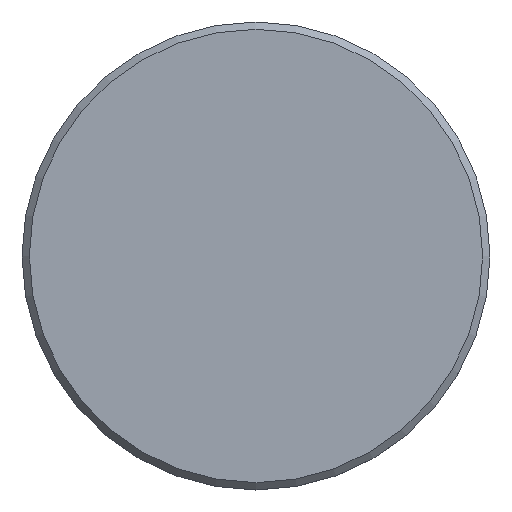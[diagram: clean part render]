
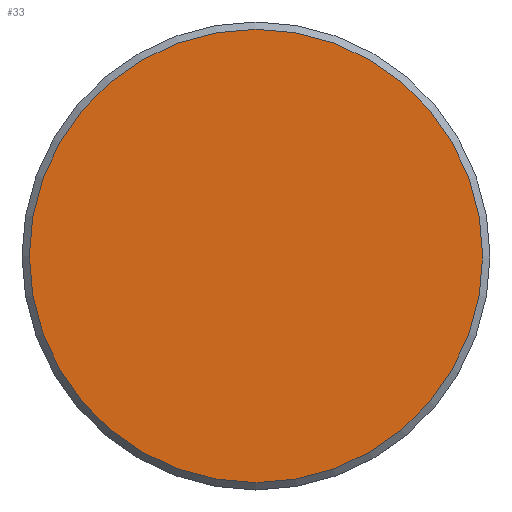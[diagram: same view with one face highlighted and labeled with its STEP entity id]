
A CAD part, top view. The second image highlights one B-rep face of the part: STEP entity #33.
In plain terms, the highlighted planar face has unit normal (0, 0, 1).
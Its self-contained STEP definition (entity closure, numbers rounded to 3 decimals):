
#4 = EDGE_CURVE ( 'NONE', #164, #164, #25, .T. ) ;
#11 = ORIENTED_EDGE ( 'NONE', *, *, #4, .T. ) ;
#25 = CIRCLE ( 'NONE', #109, 15.5 ) ;
#32 = PLANE ( 'NONE',  #133 ) ;
#33 = ADVANCED_FACE ( 'NONE', ( #113 ), #32, .F. ) ;
#36 = DIRECTION ( 'NONE',  ( 1., 0., 0. ) ) ;
#37 = CARTESIAN_POINT ( 'NONE',  ( 0., 0., 0. ) ) ;
#40 = DIRECTION ( 'NONE',  ( 0., 0., -1. ) ) ;
#41 = DIRECTION ( 'NONE',  ( -1., 0., 0. ) ) ;
#59 = DIRECTION ( 'NONE',  ( 0., 0., 1. ) ) ;
#109 = AXIS2_PLACEMENT_3D ( 'NONE', #37, #59, #36 ) ;
#113 = FACE_OUTER_BOUND ( 'NONE', #136, .T. ) ;
#133 = AXIS2_PLACEMENT_3D ( 'NONE', #148, #40, #41 ) ;
#136 = EDGE_LOOP ( 'NONE', ( #11 ) ) ;
#148 = CARTESIAN_POINT ( 'NONE',  ( 0., 0., 0. ) ) ;
#162 = CARTESIAN_POINT ( 'NONE',  ( 15.5, 0., 0. ) ) ;
#164 = VERTEX_POINT ( 'NONE', #162 ) ;
